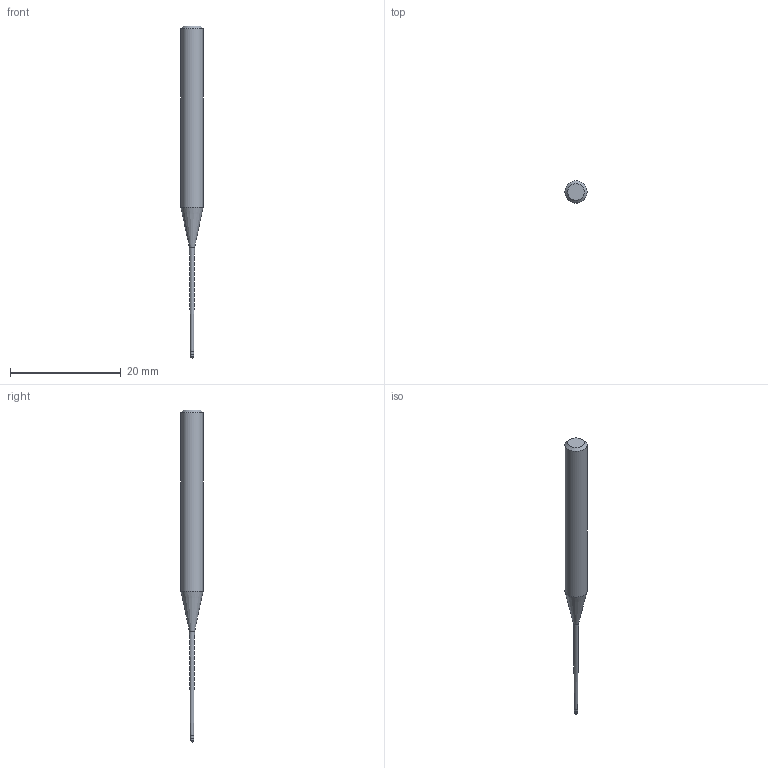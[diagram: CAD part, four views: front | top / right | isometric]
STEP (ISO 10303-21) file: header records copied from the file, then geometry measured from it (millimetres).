
FILE_DESCRIPTION((''),'2;1');
FILE_NAME('C:\Users\nsx150\AppData\Local\Temp\Mastercam 2021\SNAKH10GOD\TEMP.step','2021-10-21T13:31:26',(''),(''),'STEP Write','Mastercam 2021 ... CNC Software, Inc.','');
FILE_SCHEMA(('AUTOMOTIVE_DESIGN'));
Length unit declared in the file: millimetre
Products named in the file (1): None
Bounding box: 4 x 4 x 60 mm (x, y, z)
Volume: 458.3 mm3; surface area: 525.2 mm2
Topology: 2 solids, 2 shells, 10 faces, 16 edges, 9 vertices
Faces by surface type: plane 3, cylinder 3, cone 3, sphere 1
Full cylindrical faces by diameter (mm): 0.585 x1, 0.6 x1, 4 x1
Entity records: 232 total; most frequent: DIRECTION 40, CARTESIAN_POINT 28, AXIS2_PLACEMENT_3D 20, ORIENTED_EDGE 16, EDGE_LOOP 16, STYLED_ITEM 13, ADVANCED_FACE 10, FACE_BOUND 9
